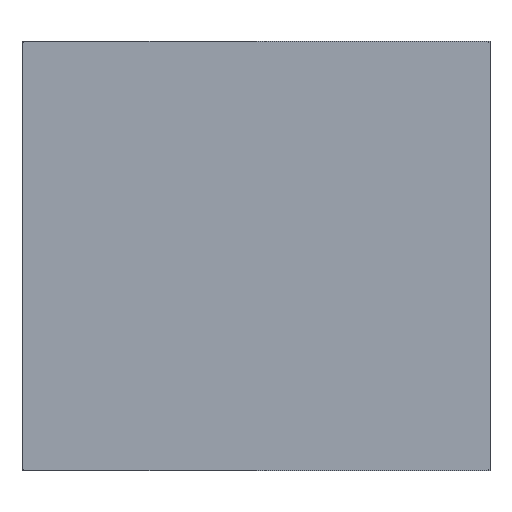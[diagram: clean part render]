
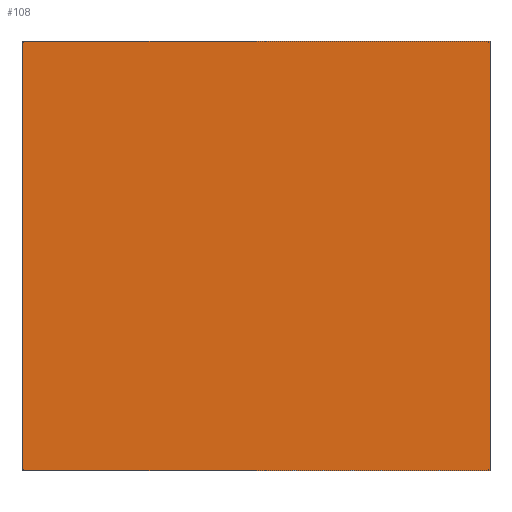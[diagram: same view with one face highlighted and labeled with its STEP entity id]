
A CAD part, left-side view. The second image highlights one B-rep face of the part: STEP entity #108.
In plain terms, the highlighted planar face has unit normal (-1, 0, 0).
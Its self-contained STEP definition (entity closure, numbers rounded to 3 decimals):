
#69=DIRECTION('',(0.,0.,-1.));
#70=VECTOR('',#69,1100.);
#71=CARTESIAN_POINT('',(-2141.5,-600.,549.));
#72=LINE('',#71,#70);
#73=DIRECTION('',(0.,1.,0.));
#74=VECTOR('',#73,1200.);
#75=CARTESIAN_POINT('',(-2141.5,-600.,-551.));
#76=LINE('',#75,#74);
#77=DIRECTION('',(0.,0.,1.));
#78=VECTOR('',#77,1100.);
#79=CARTESIAN_POINT('',(-2141.5,600.,-551.));
#80=LINE('',#79,#78);
#81=DIRECTION('',(0.,-1.,0.));
#82=VECTOR('',#81,1200.);
#83=CARTESIAN_POINT('',(-2141.5,600.,549.));
#84=LINE('',#83,#82);
#85=CARTESIAN_POINT('',(-2141.5,-600.,-551.));
#86=CARTESIAN_POINT('',(-2141.5,-600.,549.));
#87=VERTEX_POINT('',#85);
#88=VERTEX_POINT('',#86);
#89=CARTESIAN_POINT('',(-2141.5,600.,549.));
#90=VERTEX_POINT('',#89);
#91=CARTESIAN_POINT('',(-2141.5,600.,-551.));
#92=VERTEX_POINT('',#91);
#93=CARTESIAN_POINT('',(-2141.5,0.,0.));
#94=DIRECTION('',(-1.,0.,0.));
#95=DIRECTION('',(0.,1.,0.));
#96=AXIS2_PLACEMENT_3D('',#93,#94,#95);
#97=PLANE('',#96);
#99=ORIENTED_EDGE('',*,*,#98,.T.);
#101=ORIENTED_EDGE('',*,*,#100,.T.);
#103=ORIENTED_EDGE('',*,*,#102,.T.);
#105=ORIENTED_EDGE('',*,*,#104,.T.);
#106=EDGE_LOOP('',(#99,#101,#103,#105));
#107=FACE_OUTER_BOUND('',#106,.F.);
#98=EDGE_CURVE('',#88,#87,#72,.T.);
#100=EDGE_CURVE('',#87,#92,#76,.T.);
#102=EDGE_CURVE('',#92,#90,#80,.T.);
#104=EDGE_CURVE('',#90,#88,#84,.T.);
#108=ADVANCED_FACE('',(#107),#97,.T.);
